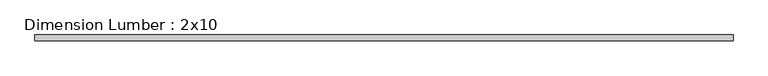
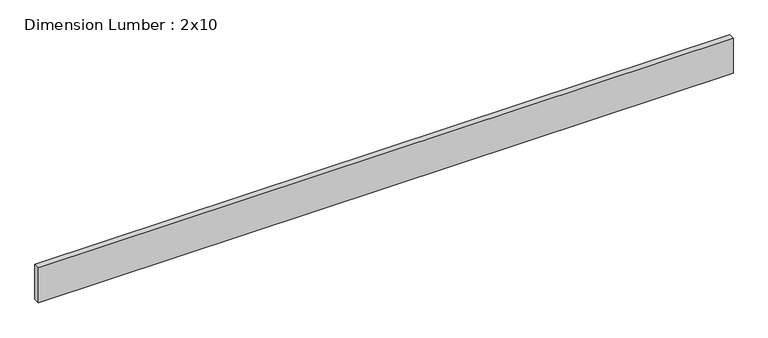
"""IFC4 building model written with IfcOpenShell, lengths in millimetres: beam geometry, Dimension Lumber : 2x10."""

from ifc_helpers import new_model, si_unit, frame, origin, place, context, project, spatial, polyline, outline, extrude, source, transform, mapped, element, save


def dimension_lumber_2x10_2b3612a3(model_context):
    return source(origin(), model_context, "Body", "SweptSolid", [
        extrude(outline(polyline([(2206.625, 19.05), (2206.625, -19.05), (-2206.625, -19.05), (-2206.625, 19.05), (2206.625, 19.05)])), frame((0.0, 0.0, -117.475), z_axis=(0.0, 0.0, 1.0), x_axis=(1.0, 0.0, 0.0)), (0.0, 0.0, 1.0), 234.95),
    ])


if __name__ == "__main__":
    model = new_model("IFC4")
    model_context = context("Model", 3, world=origin())
    ifc_project = project(units=[si_unit("LENGTHUNIT", "METRE", prefix="MILLI")], contexts=[model_context])
    site = spatial("IfcSite", under=ifc_project)
    building = spatial("IfcBuilding", under=site)
    placement = place(None, origin())
    dimension_lumber_2x10_shape = dimension_lumber_2x10_2b3612a3(model_context)
    element("IfcBeam", 1, ObjectType="Dimension Lumber : 2x10", at=placement, inside=building, context=model_context, shape_type="MappedRepresentation", body=[
        mapped(dimension_lumber_2x10_shape, transform((0.0, 0.0, 0.0), x_axis=(1.0, 0.0, 0.0), y_axis=(0.0, 1.0, 0.0), z_axis=(0.0, 0.0, 1.0))),
    ])
    save(model, "model.ifc")
